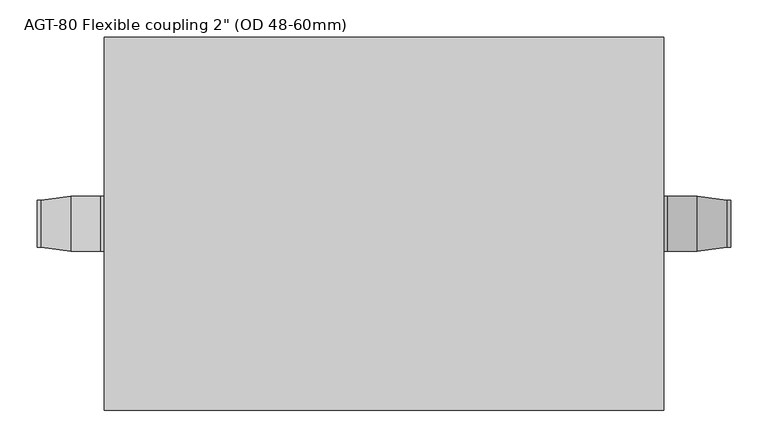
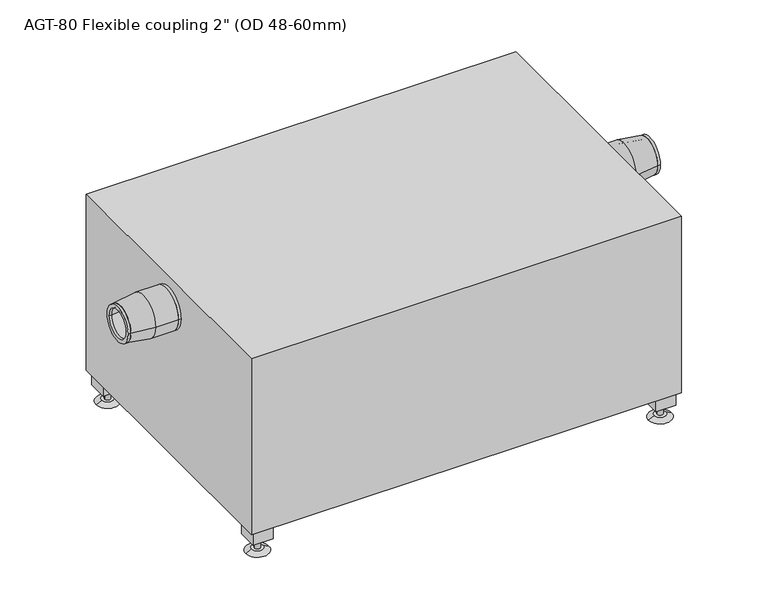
"""IFC4 building model written with IfcOpenShell, lengths in millimetres: unitary equipment geometry."""

from ifc_helpers import new_model, si_unit, point, frame, frame_2d, origin, place, context, project, spatial, polyline, circle_curve, trimmed, segment, composite_curve, outline, extrude, faceted_brep, source, transform, mapped, element, save
from ifc_brep_helpers import plane_surface, cylinder_surface, revolved_surface, advanced_brep


def unitary_equipment_5a06241d(model_context):
    return source(origin(), model_context, "Body", "SolidModel", [
        advanced_brep(
        [(459.694081, 31.65, 306.0), (459.694081, -31.65, 306.0), (459.694081, -25.0, 306.0), (459.694081, 25.0, 306.0), (419.694081, 36.8, 306.0), (419.694081, -36.8, 306.0), (380.0, 36.8, 306.0), (380.0, -36.8, 306.0), (380.0, 30.15, 306.0), (380.0, -30.15, 306.0), (419.694081, 30.15, 306.0), (419.694081, -30.15, 306.0)],
        [
            (0, 1, circle_curve(frame((459.694081, 0.0, 306.0), z_axis=(1.0, 0.0, 0.0), x_axis=(0.0, 1.0, 0.0)), 31.65)),
            (1, 0, circle_curve(frame((459.694081, 0.0, 306.0), z_axis=(1.0, 0.0, 0.0), x_axis=(0.0, -1.0, 0.0)), 31.65)),
            (2, 3, circle_curve(frame((459.694081, 0.0, 306.0), z_axis=(-1.0, 0.0, 0.0), x_axis=(0.0, 1.0, 0.0)), 25.0)),
            (3, 2, circle_curve(frame((459.694081, 0.0, 306.0), z_axis=(-1.0, 0.0, 0.0), x_axis=(0.0, -1.0, 0.0)), 25.0)),
            (0, 4),
            (4, 5, circle_curve(frame((419.694081, 0.0, 306.0), z_axis=(1.0, 0.0, 0.0), x_axis=(0.0, 1.0, 0.0)), 36.8)),
            (5, 1),
            (5, 4, circle_curve(frame((419.694081, 0.0, 306.0), z_axis=(1.0, 0.0, 0.0), x_axis=(0.0, -1.0, 0.0)), 36.8)),
            (6, 7, circle_curve(frame((380.0, 0.0, 306.0), z_axis=(-1.0, 0.0, 0.0), x_axis=(0.0, -1.0, 0.0)), 36.8)),
            (7, 6, circle_curve(frame((380.0, 0.0, 306.0), z_axis=(-1.0, 0.0, 0.0), x_axis=(0.0, -1.0, 0.0)), 36.8)),
            (8, 9, circle_curve(frame((380.0, 0.0, 306.0), z_axis=(1.0, 0.0, 0.0), x_axis=(0.0, -1.0, 0.0)), 30.15)),
            (9, 8, circle_curve(frame((380.0, 0.0, 306.0), z_axis=(1.0, 0.0, 0.0), x_axis=(0.0, -1.0, 0.0)), 30.15)),
            (7, 5),
            (4, 6),
            (8, 10),
            (10, 11, circle_curve(frame((419.694081, 0.0, 306.0), z_axis=(1.0, 0.0, 0.0), x_axis=(0.0, -1.0, 0.0)), 30.15)),
            (11, 9),
            (11, 10, circle_curve(frame((419.694081, 0.0, 306.0), z_axis=(1.0, 0.0, 0.0), x_axis=(0.0, -1.0, 0.0)), 30.15)),
            (10, 3),
            (2, 11),
        ],
        [
            plane_surface(frame((459.694081, 0.0, 306.0), z_axis=(1.0, 0.0, 0.0), x_axis=(0.0, 0.0, -1.0))),
            revolved_surface(polyline([(459.694081, 31.649999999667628, 306.0), (419.694081, 36.8, 306.0)]), (705.5193237, 0.0, 306.0), (-1.0, 0.0, 0.0)),
            revolved_surface(polyline([(459.694081, -31.649999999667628, 306.0), (419.694081, -36.8, 306.0)]), (705.5193237, 0.0, 306.0), (-1.0, 0.0, 0.0)),
            plane_surface(frame((380.0, -36.8, 306.0), z_axis=(-1.0, 0.0, 0.0), x_axis=(0.0, 0.0, 1.0))),
            cylinder_surface(frame((419.694081, 0.0, 306.0), z_axis=(-1.0, 0.0, 0.0), x_axis=(0.0, -1.0, 0.0)), 36.8),
            revolved_surface(polyline([(419.694081, -30.15, 306.0), (380.0, -30.15, 306.0)]), (419.694081, 0.0, 306.0), (1.0, 0.0, 0.0)),
            revolved_surface(polyline([(419.694081, 30.15, 306.0), (459.694081, 25.000000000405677, 306.0)]), (653.8688383, 0.0, 306.0), (-1.0, 0.0, 0.0)),
        ],
        [
            (0, [[1, 2], [3, 4]]),
            (1, [[-1, 5, 6, 7]]),
            (2, [[-2, -7, 8, -5]]),
            (3, [[9, 10], [11, 12]]),
            (4, [[-10, 13, -6, 14]]),
            (4, [[-9, -14, -8, -13]]),
            (5, [[-11, 15, 16, 17]]),
            (5, [[-12, -17, 18, -15]]),
            (6, [[19, -3, 20, -16]]),
            (6, [[-19, -18, -20, -4]]),
        ],
    ),
        extrude(outline(composite_curve([segment(trimmed(circle_curve(frame_2d((0.0, 306.0)), 36.8), [point((36.8, 306.0))], [point((-36.8, 306.0))], False, "CARTESIAN"), True, "CONTINUOUS"), segment(trimmed(circle_curve(frame_2d((0.0, 306.0)), 36.8), [point((-36.8, 306.0))], [point((36.8, 306.0))], False, "CARTESIAN"), True, "CONTINUOUS")], self_intersect=False), holes=[composite_curve([segment(trimmed(circle_curve(frame_2d((0.0, 306.0)), 30.15), [point((30.15, 306.0))], [point((-30.15, 306.0))], True, "CARTESIAN"), True, "CONTINUOUS"), segment(trimmed(circle_curve(frame_2d((0.0, 306.0)), 30.15), [point((-30.15, 306.0))], [point((30.15, 306.0))], True, "CARTESIAN"), True, "CONTINUOUS")], self_intersect=False)]), frame((375.0, 0.0, 0.0), z_axis=(1.0, 0.0, 0.0), x_axis=(0.0, 1.0, 0.0)), (0.0, 0.0, 1.0), 5.0),
        extrude(outline(composite_curve([segment(trimmed(circle_curve(frame_2d((0.0, 306.0)), 31.65), [point((31.65, 306.0))], [point((-31.65, 306.0))], False, "CARTESIAN"), True, "CONTINUOUS"), segment(trimmed(circle_curve(frame_2d((0.0, 306.0)), 31.65), [point((-31.65, 306.0))], [point((31.65, 306.0))], False, "CARTESIAN"), True, "CONTINUOUS")], self_intersect=False), holes=[composite_curve([segment(trimmed(circle_curve(frame_2d((0.0, 306.0)), 25.0), [point((25.0, 306.0))], [point((-25.0, 306.0))], True, "CARTESIAN"), True, "CONTINUOUS"), segment(trimmed(circle_curve(frame_2d((0.0, 306.0)), 25.0), [point((-25.0, 306.0))], [point((25.0, 306.0))], True, "CARTESIAN"), True, "CONTINUOUS")], self_intersect=False)]), frame((459.694081, 0.0, 0.0), z_axis=(1.0, 0.0, 0.0), x_axis=(0.0, 1.0, 0.0)), (0.0, 0.0, 1.0), 5.0),
        advanced_brep(
        [(-459.694081, -31.65, 319.0), (-459.694081, 31.65, 319.0), (-459.694081, 25.0, 319.0), (-459.694081, -25.0, 319.0), (-419.694081, -36.8, 319.0), (-419.694081, 36.8, 319.0), (-380.0, -36.8, 319.0), (-380.0, 36.8, 319.0), (-380.0, -30.15, 319.0), (-380.0, 30.15, 319.0), (-419.694081, -30.15, 319.0), (-419.694081, 30.15, 319.0)],
        [
            (0, 1, circle_curve(frame((-459.694081, 0.0, 319.0), z_axis=(-1.0, 0.0, 0.0), x_axis=(0.0, -1.0, 0.0)), 31.65)),
            (1, 0, circle_curve(frame((-459.694081, 0.0, 319.0), z_axis=(-1.0, 0.0, 0.0), x_axis=(0.0, 1.0, 0.0)), 31.65)),
            (2, 3, circle_curve(frame((-459.694081, 0.0, 319.0), z_axis=(1.0, 0.0, 0.0), x_axis=(0.0, -1.0, 0.0)), 25.0)),
            (3, 2, circle_curve(frame((-459.694081, 0.0, 319.0), z_axis=(1.0, 0.0, 0.0), x_axis=(0.0, 1.0, 0.0)), 25.0)),
            (0, 4),
            (4, 5, circle_curve(frame((-419.694081, 0.0, 319.0), z_axis=(-1.0, 0.0, 0.0), x_axis=(0.0, -1.0, 0.0)), 36.8)),
            (5, 1),
            (5, 4, circle_curve(frame((-419.694081, 0.0, 319.0), z_axis=(-1.0, 0.0, 0.0), x_axis=(0.0, 1.0, 0.0)), 36.8)),
            (6, 7, circle_curve(frame((-380.0, 0.0, 319.0), z_axis=(1.0, 0.0, 0.0), x_axis=(0.0, 1.0, 0.0)), 36.8)),
            (7, 6, circle_curve(frame((-380.0, 0.0, 319.0), z_axis=(1.0, 0.0, 0.0), x_axis=(0.0, 1.0, 0.0)), 36.8)),
            (8, 9, circle_curve(frame((-380.0, 0.0, 319.0), z_axis=(-1.0, 0.0, 0.0), x_axis=(0.0, 1.0, 0.0)), 30.15)),
            (9, 8, circle_curve(frame((-380.0, 0.0, 319.0), z_axis=(-1.0, 0.0, 0.0), x_axis=(0.0, 1.0, 0.0)), 30.15)),
            (7, 5),
            (4, 6),
            (8, 10),
            (10, 11, circle_curve(frame((-419.694081, 0.0, 319.0), z_axis=(-1.0, 0.0, 0.0), x_axis=(0.0, 1.0, 0.0)), 30.15)),
            (11, 9),
            (11, 10, circle_curve(frame((-419.694081, 0.0, 319.0), z_axis=(-1.0, 0.0, 0.0), x_axis=(0.0, 1.0, 0.0)), 30.15)),
            (10, 3),
            (2, 11),
        ],
        [
            plane_surface(frame((-459.694081, 0.0, 319.0), z_axis=(-1.0, 0.0, 0.0), x_axis=(0.0, 0.0, -1.0))),
            revolved_surface(polyline([(-459.694081, -31.649999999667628, 319.0), (-419.694081, -36.8, 319.0)]), (-705.5193237, 0.0, 319.0), (1.0, 0.0, 0.0)),
            revolved_surface(polyline([(-459.694081, 31.649999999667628, 319.0), (-419.694081, 36.8, 319.0)]), (-705.5193237, 0.0, 319.0), (1.0, 0.0, 0.0)),
            plane_surface(frame((-380.0, 36.8, 319.0), z_axis=(1.0, 0.0, 0.0), x_axis=(0.0, 0.0, 1.0))),
            cylinder_surface(frame((-419.694081, 0.0, 319.0), z_axis=(1.0, 0.0, 0.0), x_axis=(0.0, 1.0, 0.0)), 36.8),
            revolved_surface(polyline([(-419.694081, 30.15, 319.0), (-380.0, 30.15, 319.0)]), (-419.694081, 0.0, 319.0), (-1.0, 0.0, 0.0)),
            revolved_surface(polyline([(-419.694081, -30.15, 319.0), (-459.694081, -25.000000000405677, 319.0)]), (-653.8688383, 0.0, 319.0), (1.0, 0.0, 0.0)),
        ],
        [
            (0, [[1, 2], [3, 4]]),
            (1, [[-1, 5, 6, 7]]),
            (2, [[-2, -7, 8, -5]]),
            (3, [[9, 10], [11, 12]]),
            (4, [[-10, 13, -6, 14]]),
            (4, [[-9, -14, -8, -13]]),
            (5, [[-11, 15, 16, 17]]),
            (5, [[-12, -17, 18, -15]]),
            (6, [[19, -3, 20, -16]]),
            (6, [[-19, -18, -20, -4]]),
        ],
    ),
        extrude(outline(composite_curve([segment(trimmed(circle_curve(frame_2d((0.0, 319.0)), 36.8), [point((-36.8, 319.0))], [point((36.8, 319.0))], False, "CARTESIAN"), True, "CONTINUOUS"), segment(trimmed(circle_curve(frame_2d((0.0, 319.0)), 36.8), [point((36.8, 319.0))], [point((-36.8, 319.0))], False, "CARTESIAN"), True, "CONTINUOUS")], self_intersect=False), holes=[composite_curve([segment(trimmed(circle_curve(frame_2d((0.0, 319.0)), 30.15), [point((-30.15, 319.0))], [point((30.15, 319.0))], True, "CARTESIAN"), True, "CONTINUOUS"), segment(trimmed(circle_curve(frame_2d((0.0, 319.0)), 30.15), [point((30.15, 319.0))], [point((-30.15, 319.0))], True, "CARTESIAN"), True, "CONTINUOUS")], self_intersect=False)]), frame((-380.0, 0.0, 0.0), z_axis=(1.0, 0.0, 0.0), x_axis=(0.0, 1.0, 0.0)), (0.0, 0.0, 1.0), 5.0),
        extrude(outline(composite_curve([segment(trimmed(circle_curve(frame_2d((0.0, 319.0)), 31.65), [point((-31.65, 319.0))], [point((31.65, 319.0))], False, "CARTESIAN"), True, "CONTINUOUS"), segment(trimmed(circle_curve(frame_2d((0.0, 319.0)), 31.65), [point((31.65, 319.0))], [point((-31.65, 319.0))], False, "CARTESIAN"), True, "CONTINUOUS")], self_intersect=False), holes=[composite_curve([segment(trimmed(circle_curve(frame_2d((0.0, 319.0)), 25.0), [point((-25.0, 319.0))], [point((25.0, 319.0))], True, "CARTESIAN"), True, "CONTINUOUS"), segment(trimmed(circle_curve(frame_2d((0.0, 319.0)), 25.0), [point((25.0, 319.0))], [point((-25.0, 319.0))], True, "CARTESIAN"), True, "CONTINUOUS")], self_intersect=False)]), frame((-464.694081, 0.0, 0.0), z_axis=(1.0, 0.0, 0.0), x_axis=(0.0, 1.0, 0.0)), (0.0, 0.0, 1.0), 5.0),
        extrude(outline(composite_curve([segment(trimmed(circle_curve(frame_2d((0.0, 52.5)), 20.0), [point((-20.0, 52.5))], [point((20.0, 52.5))], False, "CARTESIAN"), True, "CONTINUOUS"), segment(trimmed(circle_curve(frame_2d((0.0, 52.5)), 20.0), [point((20.0, 52.5))], [point((-20.0, 52.5))], False, "CARTESIAN"), True, "CONTINUOUS")], self_intersect=False)), frame((375.0, 0.0, 0.0), z_axis=(1.0, 0.0, 0.0), x_axis=(0.0, 1.0, 0.0)), (0.0, 0.0, 1.0), 80.0),
        extrude(outline(composite_curve([segment(trimmed(circle_curve(frame_2d((0.0, 319.0)), 30.15), [point((-30.15, 319.0))], [point((30.15, 319.0))], False, "CARTESIAN"), True, "CONTINUOUS"), segment(trimmed(circle_curve(frame_2d((0.0, 319.0)), 30.15), [point((30.15, 319.0))], [point((-30.15, 319.0))], False, "CARTESIAN"), True, "CONTINUOUS")], self_intersect=False)), frame((-415.0, 0.0, 0.0), z_axis=(1.0, 0.0, 0.0), x_axis=(0.0, 1.0, 0.0)), (0.0, 0.0, 1.0), 40.0),
        extrude(outline(composite_curve([segment(trimmed(circle_curve(frame_2d((0.0, 306.0)), 30.15), [point((-30.15, 306.0))], [point((30.15, 306.0))], False, "CARTESIAN"), True, "CONTINUOUS"), segment(trimmed(circle_curve(frame_2d((0.0, 306.0)), 30.15), [point((30.15, 306.0))], [point((-30.15, 306.0))], False, "CARTESIAN"), True, "CONTINUOUS")], self_intersect=False)), frame((375.0, 0.0, 0.0), z_axis=(1.0, 0.0, 0.0), x_axis=(0.0, 1.0, 0.0)), (0.0, 0.0, 1.0), 40.0),
        advanced_brep(
        [(361.5, 226.5, 5.0), (341.5, 226.5, 5.0), (371.5, 226.5, 0.0), (331.5, 226.5, 0.0)],
        [
            (0, 1, circle_curve(frame((351.5, 226.5, 5.0), z_axis=(0.0, 0.0, 1.0), x_axis=(1.0, 0.0, 0.0)), 10.0)),
            (1, 0, circle_curve(frame((351.5, 226.5, 5.0), z_axis=(0.0, 0.0, 1.0), x_axis=(-1.0, 0.0, 0.0)), 10.0)),
            (2, 3, circle_curve(frame((351.5, 226.5, 0.0), z_axis=(0.0, 0.0, -1.0), x_axis=(-1.0, 0.0, 0.0)), 20.0)),
            (3, 2, circle_curve(frame((351.5, 226.5, 0.0), z_axis=(0.0, 0.0, -1.0), x_axis=(1.0, 0.0, 0.0)), 20.0)),
            (3, 1),
            (0, 2),
        ],
        [
            plane_surface(frame((351.5, 226.5, 5.0), z_axis=(0.0, 0.0, 1.0), x_axis=(0.0, 1.0, 0.0))),
            plane_surface(frame((351.5, 226.5, 0.0), z_axis=(0.0, 0.0, -1.0), x_axis=(0.0, 1.0, 0.0))),
            revolved_surface(polyline([(361.5, 226.5, 5.0), (371.5, 226.5, 0.0)]), (351.5, 226.5, 10.0), (0.0, 0.0, -1.0)),
            revolved_surface(polyline([(341.5, 226.5, 5.0), (331.5, 226.5, 0.0)]), (351.5, 226.5, 10.0), (0.0, 0.0, -1.0)),
        ],
        [
            (0, [[1, 2]]),
            (1, [[3, 4]]),
            (2, [[-4, 5, -1, 6]]),
            (3, [[-3, -6, -2, -5]]),
        ],
    ),
        extrude(outline(composite_curve([segment(trimmed(circle_curve(frame_2d((351.5, 226.5)), 5.0), [point((356.5, 226.5))], [point((346.5, 226.5))], False, "CARTESIAN"), True, "CONTINUOUS"), segment(trimmed(circle_curve(frame_2d((351.5, 226.5)), 5.0), [point((346.5, 226.5))], [point((356.5, 226.5))], False, "CARTESIAN"), True, "CONTINUOUS")], self_intersect=False)), frame((0.0, 0.0, 5.0), z_axis=(0.0, 0.0, 1.0), x_axis=(1.0, 0.0, 0.0)), (0.0, 0.0, 1.0), 20.0),
        extrude(outline(composite_curve([segment(trimmed(circle_curve(frame_2d((-351.5, 226.5)), 5.0), [point((-356.5, 226.5))], [point((-346.5, 226.5))], False, "CARTESIAN"), True, "CONTINUOUS"), segment(trimmed(circle_curve(frame_2d((-351.5, 226.5)), 5.0), [point((-346.5, 226.5))], [point((-356.5, 226.5))], False, "CARTESIAN"), True, "CONTINUOUS")], self_intersect=False)), frame((0.0, 0.0, 5.0), z_axis=(0.0, 0.0, 1.0), x_axis=(1.0, 0.0, 0.0)), (0.0, 0.0, 1.0), 20.0),
        advanced_brep(
        [(-361.5, 226.5, 5.0), (-341.5, 226.5, 5.0), (-371.5, 226.5, 0.0), (-331.5, 226.5, 0.0)],
        [
            (0, 1, circle_curve(frame((-351.5, 226.5, 5.0), z_axis=(0.0, 0.0, 1.0), x_axis=(-1.0, 0.0, 0.0)), 10.0)),
            (1, 0, circle_curve(frame((-351.5, 226.5, 5.0), z_axis=(0.0, 0.0, 1.0), x_axis=(1.0, 0.0, 0.0)), 10.0)),
            (2, 3, circle_curve(frame((-351.5, 226.5, 0.0), z_axis=(0.0, 0.0, -1.0), x_axis=(1.0, 0.0, 0.0)), 20.0)),
            (3, 2, circle_curve(frame((-351.5, 226.5, 0.0), z_axis=(0.0, 0.0, -1.0), x_axis=(-1.0, 0.0, 0.0)), 20.0)),
            (2, 0),
            (1, 3),
        ],
        [
            plane_surface(frame((-351.5, 226.5, 5.0), z_axis=(0.0, 0.0, 1.0), x_axis=(0.0, -1.0, 0.0))),
            plane_surface(frame((-351.5, 226.5, 0.0), z_axis=(0.0, 0.0, -1.0), x_axis=(0.0, -1.0, 0.0))),
            revolved_surface(polyline([(-341.5, 226.5, 5.0), (-331.5, 226.5, 0.0)]), (-351.5, 226.5, 10.0), (0.0, 0.0, -1.0)),
            revolved_surface(polyline([(-361.5, 226.5, 5.0), (-371.5, 226.5, 0.0)]), (-351.5, 226.5, 10.0), (0.0, 0.0, -1.0)),
        ],
        [
            (0, [[1, 2]]),
            (1, [[3, 4]]),
            (2, [[-3, 5, -2, 6]]),
            (3, [[-4, -6, -1, -5]]),
        ],
    ),
        advanced_brep(
        [(361.5, -226.5, 5.0), (341.5, -226.5, 5.0), (371.5, -226.5, 0.0), (331.5, -226.5, 0.0)],
        [
            (0, 1, circle_curve(frame((351.5, -226.5, 5.0), z_axis=(0.0, 0.0, 1.0), x_axis=(1.0, 0.0, 0.0)), 10.0)),
            (1, 0, circle_curve(frame((351.5, -226.5, 5.0), z_axis=(0.0, 0.0, 1.0), x_axis=(-1.0, 0.0, 0.0)), 10.0)),
            (2, 3, circle_curve(frame((351.5, -226.5, 0.0), z_axis=(0.0, 0.0, -1.0), x_axis=(-1.0, 0.0, 0.0)), 20.0)),
            (3, 2, circle_curve(frame((351.5, -226.5, 0.0), z_axis=(0.0, 0.0, -1.0), x_axis=(1.0, 0.0, 0.0)), 20.0)),
            (2, 0),
            (1, 3),
        ],
        [
            plane_surface(frame((351.5, -226.5, 5.0), z_axis=(0.0, 0.0, 1.0), x_axis=(0.0, 1.0, 0.0))),
            plane_surface(frame((351.5, -226.5, 0.0), z_axis=(0.0, 0.0, -1.0), x_axis=(0.0, 1.0, 0.0))),
            revolved_surface(polyline([(341.5, -226.5, 5.0), (331.5, -226.5, 0.0)]), (351.5, -226.5, 10.0), (0.0, 0.0, -1.0)),
            revolved_surface(polyline([(361.5, -226.5, 5.0), (371.5, -226.5, 0.0)]), (351.5, -226.5, 10.0), (0.0, 0.0, -1.0)),
        ],
        [
            (0, [[1, 2]]),
            (1, [[3, 4]]),
            (2, [[-3, 5, -2, 6]]),
            (3, [[-4, -6, -1, -5]]),
        ],
    ),
        extrude(outline(composite_curve([segment(trimmed(circle_curve(frame_2d((351.5, -226.5)), 5.0), [point((356.5, -226.5))], [point((346.5, -226.5))], False, "CARTESIAN"), True, "CONTINUOUS"), segment(trimmed(circle_curve(frame_2d((351.5, -226.5)), 5.0), [point((346.5, -226.5))], [point((356.5, -226.5))], False, "CARTESIAN"), True, "CONTINUOUS")], self_intersect=False)), frame((0.0, 0.0, 5.0), z_axis=(0.0, 0.0, 1.0), x_axis=(1.0, 0.0, 0.0)), (0.0, 0.0, 1.0), 20.0),
        extrude(outline(composite_curve([segment(trimmed(circle_curve(frame_2d((-351.5, -226.5)), 5.0), [point((-356.5, -226.5))], [point((-346.5, -226.5))], False, "CARTESIAN"), True, "CONTINUOUS"), segment(trimmed(circle_curve(frame_2d((-351.5, -226.5)), 5.0), [point((-346.5, -226.5))], [point((-356.5, -226.5))], False, "CARTESIAN"), True, "CONTINUOUS")], self_intersect=False)), frame((0.0, 0.0, 5.0), z_axis=(0.0, 0.0, 1.0), x_axis=(1.0, 0.0, 0.0)), (0.0, 0.0, 1.0), 20.0),
        advanced_brep(
        [(-361.5, -226.5, 5.0), (-341.5, -226.5, 5.0), (-371.5, -226.5, 0.0), (-331.5, -226.5, 0.0)],
        [
            (0, 1, circle_curve(frame((-351.5, -226.5, 5.0), z_axis=(0.0, 0.0, 1.0), x_axis=(-1.0, 0.0, 0.0)), 10.0)),
            (1, 0, circle_curve(frame((-351.5, -226.5, 5.0), z_axis=(0.0, 0.0, 1.0), x_axis=(1.0, 0.0, 0.0)), 10.0)),
            (2, 3, circle_curve(frame((-351.5, -226.5, 0.0), z_axis=(0.0, 0.0, -1.0), x_axis=(1.0, 0.0, 0.0)), 20.0)),
            (3, 2, circle_curve(frame((-351.5, -226.5, 0.0), z_axis=(0.0, 0.0, -1.0), x_axis=(-1.0, 0.0, 0.0)), 20.0)),
            (3, 1),
            (0, 2),
        ],
        [
            plane_surface(frame((-351.5, -226.5, 5.0), z_axis=(0.0, 0.0, 1.0), x_axis=(0.0, -1.0, 0.0))),
            plane_surface(frame((-351.5, -226.5, 0.0), z_axis=(0.0, 0.0, -1.0), x_axis=(0.0, -1.0, 0.0))),
            revolved_surface(polyline([(-361.5, -226.5, 5.0), (-371.5, -226.5, 0.0)]), (-351.5, -226.5, 10.0), (0.0, 0.0, -1.0)),
            revolved_surface(polyline([(-341.5, -226.5, 5.0), (-331.5, -226.5, 0.0)]), (-351.5, -226.5, 10.0), (0.0, 0.0, -1.0)),
        ],
        [
            (0, [[1, 2]]),
            (1, [[3, 4]]),
            (2, [[-4, 5, -1, 6]]),
            (3, [[-3, -6, -2, -5]]),
        ],
    ),
        extrude(outline(polyline([(-334.0, 244.0), (-334.0, 209.0), (-369.0, 209.0), (-369.0, 244.0), (-334.0, 244.0)])), frame((0.0, 0.0, 25.0), z_axis=(0.0, 0.0, 1.0), x_axis=(1.0, 0.0, 0.0)), (0.0, 0.0, 1.0), 25.0),
        extrude(outline(polyline([(334.0, 244.0), (369.0, 244.0), (369.0, 209.0), (334.0, 209.0), (334.0, 244.0)])), frame((0.0, 0.0, 25.0), z_axis=(0.0, 0.0, 1.0), x_axis=(1.0, 0.0, 0.0)), (0.0, 0.0, 1.0), 25.0),
        extrude(outline(polyline([(-334.0, -244.0), (-369.0, -244.0), (-369.0, -209.0), (-334.0, -209.0), (-334.0, -244.0)])), frame((0.0, 0.0, 25.0), z_axis=(0.0, 0.0, 1.0), x_axis=(1.0, 0.0, 0.0)), (0.0, 0.0, 1.0), 25.0),
        extrude(outline(polyline([(334.0, -244.0), (334.0, -209.0), (369.0, -209.0), (369.0, -244.0), (334.0, -244.0)])), frame((0.0, 0.0, 25.0), z_axis=(0.0, 0.0, 1.0), x_axis=(1.0, 0.0, 0.0)), (0.0, 0.0, 1.0), 25.0),
        faceted_brep([(-375.0, -250.0, 375.0), (-375.0, 250.0, 375.0), (-375.0, 250.0, 50.0), (-375.0, -250.0, 50.0), (375.0, -250.0, 375.0), (375.0, -250.0, 50.0), (375.0, 0.0, 25.0), (375.0, 250.0, 50.0), (375.0, 250.0, 375.0)], [[[0, 1, 2, 3]], [[4, 5, 6, 7, 8]], [[5, 4, 0, 3]], [[8, 7, 2, 1]], [[4, 8, 1, 0]], [[6, 5, 3]], [[7, 6, 2]], [[3, 2, 6]]]),
    ])


if __name__ == "__main__":
    model = new_model("IFC4")
    model_context = context("Model", 3, world=origin())
    ifc_project = project(units=[si_unit("LENGTHUNIT", "METRE", prefix="MILLI")], contexts=[model_context])
    site = spatial("IfcSite", under=ifc_project)
    building = spatial("IfcBuilding", under=site)
    placement = place(None, origin())
    unitary_equipment_shape = unitary_equipment_5a06241d(model_context)
    element("IfcUnitaryEquipment", 1, ObjectType="ME_ST_UN_AGT grease trap_ACO : AGT-80 Flexible coupling 2\" (OD 48-60mm)", at=placement, inside=building, context=model_context, shape_type="MappedRepresentation", body=[
        mapped(unitary_equipment_shape, transform((0.0, 0.0, 0.0), x_axis=(1.0, 0.0, 0.0), y_axis=(0.0, 1.0, 0.0), z_axis=(0.0, 0.0, 1.0))),
    ])
    save(model, "model.ifc")
